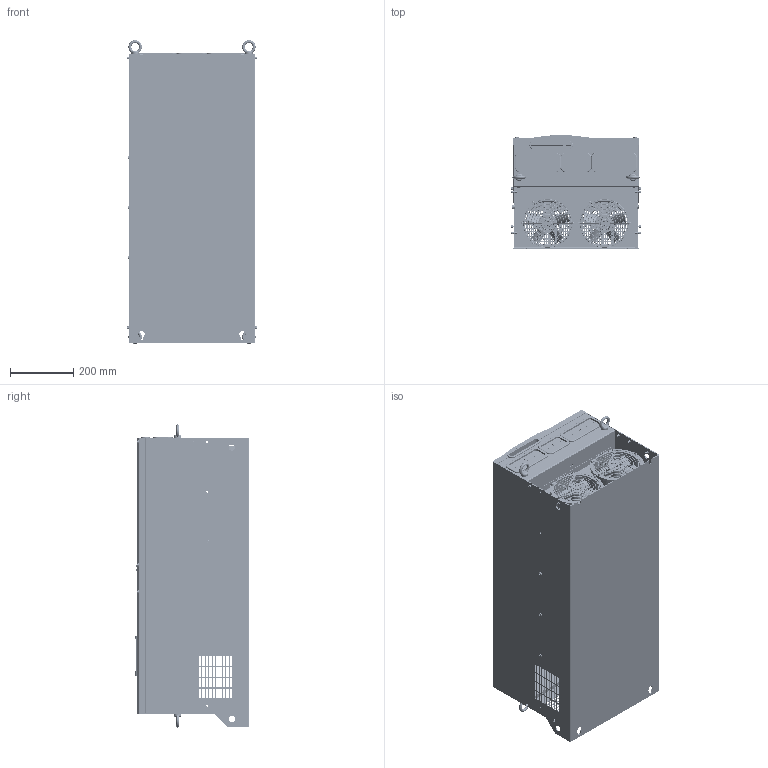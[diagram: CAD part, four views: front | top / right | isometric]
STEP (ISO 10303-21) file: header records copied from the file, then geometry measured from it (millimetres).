
FILE_DESCRIPTION((''),'2;1');
FILE_NAME('T10_ASM','2024-03-28T13:48:00',('dyliuk'),(''),'CREO PARAMETRIC BY PTC INC, 2020044','CREO PARAMETRIC BY PTC INC, 2020044','');
FILE_SCHEMA(('CONFIG_CONTROL_DESIGN','SHAPE_APPEARANCE_LAYERS_GROUPS'));
Products named in the file (104): 8057V1602_5_1; S-M6-1_3_4_1; 5057V1604_ASM_33_ASM_1_ASM; 8051V1601_3_1; S-M5-2_3_7_1; BSO-M3-18_3_1; 5050V1604_ASM_3_ASM_1_ASM; 8073V1601_3_1; S-M8-1_3_10_1; 5073V1601_ASM_3_ASM_1_ASM; 8040V1613_3_1; 5040V1623_ASM_3_ASM_1_ASM; 8040V1609_3_1; 5040V1619_ASM_3_ASM_1_ASM; 8040V1610_3_1; 5040V1620_ASM_3_ASM_1_ASM; 8040V1611_3_1; 5040V1621_ASM_3_ASM_1_ASM; 8050V1606_5_1; 5050V1606_ASM_3_ASM_1_ASM; 8040V1617_3_1; S-M5-2_7_1; 5040V1625_ASM_3_ASM_1_ASM; 8040V1618_3_1; 8130V1606_3_1; 8130V1607_3_1; M10_3_1; 8040V1621_3_1; 5057V1603_ASM_8_ASM_1_ASM; 8423V1615_9_1; HOOP_2_1; 8392V1601_2_1; 8392V1602_2_1; 8392V1603_3_1; 200KW-8050V1605_1_15_1; 5050V1615_ASM_12_ASM_1_ASM; GB-T-9074-13-M5-12_2_1; FENGJIKUANG-220T_4_1; S-M4-1_3_14_1; 30001-00020_3_4_1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
Assembly tree (208 placements, depth 6):
  T10_ASM
    2971V1669_ASM_66_ASM_1_ASM
      5057V1603_ASM_8_ASM_1_ASM
        5057V1604_ASM_33_ASM_1_ASM
          8057V1602_5_1
          S-M6-1_3_4_1  x12
        5050V1604_ASM_3_ASM_1_ASM
          8051V1601_3_1
          S-M5-2_3_7_1  x12
          BSO-M3-18_3_1  x2
        5073V1601_ASM_3_ASM_1_ASM  x2
          8073V1601_3_1
          S-M8-1_3_10_1
        5040V1623_ASM_3_ASM_1_ASM
          8040V1613_3_1
          S-M5-2_3_7_1  x2
        5040V1619_ASM_3_ASM_1_ASM
          8040V1609_3_1
          S-M5-2_3_7_1  x3
        5040V1620_ASM_3_ASM_1_ASM  x4
          8040V1610_3_1
          S-M5-2_3_7_1
        5040V1621_ASM_3_ASM_1_ASM  x8
          8040V1611_3_1
          S-M5-2_3_7_1
        5050V1606_ASM_3_ASM_1_ASM
          8050V1606_5_1
          S-M5-2_3_7_1  x2
        5040V1625_ASM_3_ASM_1_ASM
          8040V1617_3_1
          S-M5-2_7_1  x2
        8040V1618_3_1
        8130V1606_3_1
        8130V1607_3_1
        M10_3_1  x4
        8040V1621_3_1  x5
      8423V1615_9_1
      HOOP_2_1  x4
      8392V1601_2_1  x2
      8392V1602_2_1
      8392V1603_3_1
      5050V1615_ASM_12_ASM_1_ASM
        200KW-8050V1605_1_15_1
        S-M5-2_3_7_1  x4
      GB-T-9074-13-M5-12_2_1  x14
      5087V1604_ASM_23_ASM_1_ASM
        FENGJIKUANG-220T_4_1
        S-M4-1_3_14_1  x8
        30001-00020_3_4_1  x2
        FAN-COVER-175-150_4_ASM_1_ASM  x2
          FAN-COVER-175-150_4_1_1
          FAN-COVER-175-150_4_2_1
          FAN-COVER-175-150_4_3_1
          FAN-COVER-175-150_4_4_1
          FAN-COVER-175-150_4_5_1
          FAN-COVER-175-150_4_6_1
          FAN-COVER-175-150_4_7_1
        S-M5-2_3_7_1  x4
        GB-T9074-4-M4-60_4_1  x8
      NVF2G-DOOR-PLATE_ASM_ASM_2_ASM__ASM
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Bounding box: 410 x 362.08 x 962 mm (x, y, z)
Volume: 12871040.8 mm3; surface area: 10787263.5 mm2
Topology: 204 solids, 251 shells, 19448 faces, 54231 edges, 35913 vertices
Faces by surface type: plane 15099, cylinder 2992, cone 692, torus 358, extrusion 164, bspline 131, sphere 8, revolution 4
Entity records: 328777 total; most frequent: CARTESIAN_POINT 63422, ORIENTED_EDGE 44473, DIRECTION 41976, EDGE_CURVE 22374, VECTOR 17120, LINE 16956, VERTEX_POINT 14743, AXIS2_PLACEMENT_3D 12426
